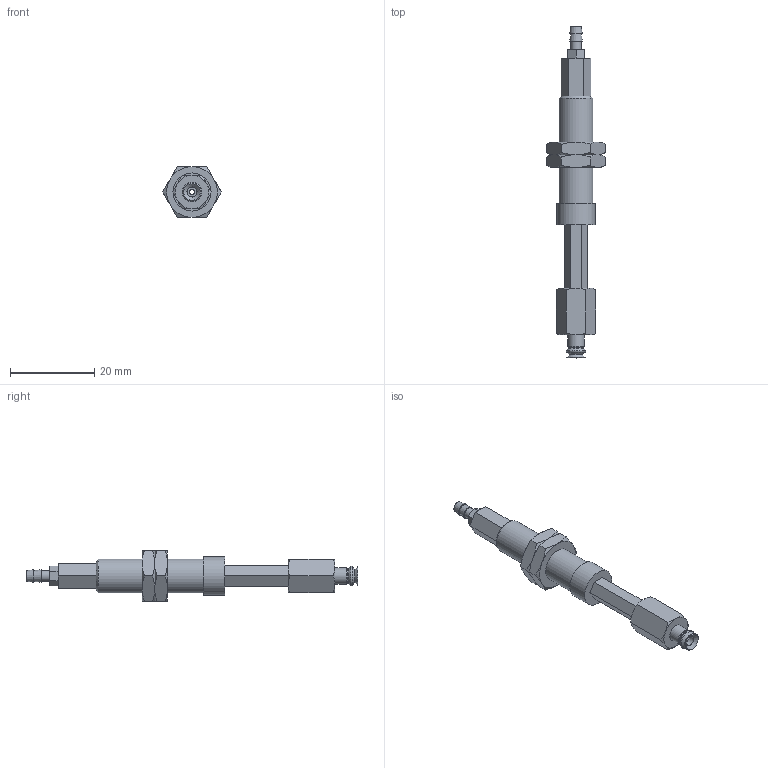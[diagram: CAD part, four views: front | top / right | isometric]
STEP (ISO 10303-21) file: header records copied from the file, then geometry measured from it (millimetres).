
FILE_DESCRIPTION(('STEP AP203'),'1');
FILE_NAME('-T.stp','2025-08-27T06:13:25',(' '),(' '),'Spatial InterOp 3D',' ',' ');
FILE_SCHEMA(('CONFIG_CONTROL_DESIGN'));
Length unit declared in the file: millimetre
Products named in the file (7): BNABPJTH-4-15-※-T; ADAPTER; NAPFTH-2A-15-MBODY; Nut-2A-15-h; NAPFTH-2A-15-FBODY; BPJG-4-※; T (2)
Assembly tree (7 placements, depth 2):
  BNABPJTH-4-15-※-T
    ADAPTER
    NAPFTH-2A-15-MBODY
    Nut-2A-15-h  x2
    NAPFTH-2A-15-FBODY
    BPJG-4-※
    T (2)
Bounding box: 13.86 x 78.6 x 12 mm (x, y, z)
Volume: 3298.3 mm3; surface area: 4045.5 mm2
Topology: 7 solids, 7 shells, 142 faces, 305 edges, 186 vertices
Faces by surface type: plane 65, cone 52, cylinder 16, torus 9
Full cylindrical faces by diameter (mm): 1.2 x3, 2 x2, 2.4 x1, 2.459 x1, 2.5 x1, 3 x3, 4 x1, 7.188 x2, 8 x1, 9 x1
Entity records: 3486 total; most frequent: CARTESIAN_POINT 773, DIRECTION 492, ORIENTED_EDGE 418, EDGE_CURVE 209, AXIS2_PLACEMENT_3D 204, EDGE_LOOP 178, VERTEX_POINT 149, FACE_OUTER_BOUND 143
